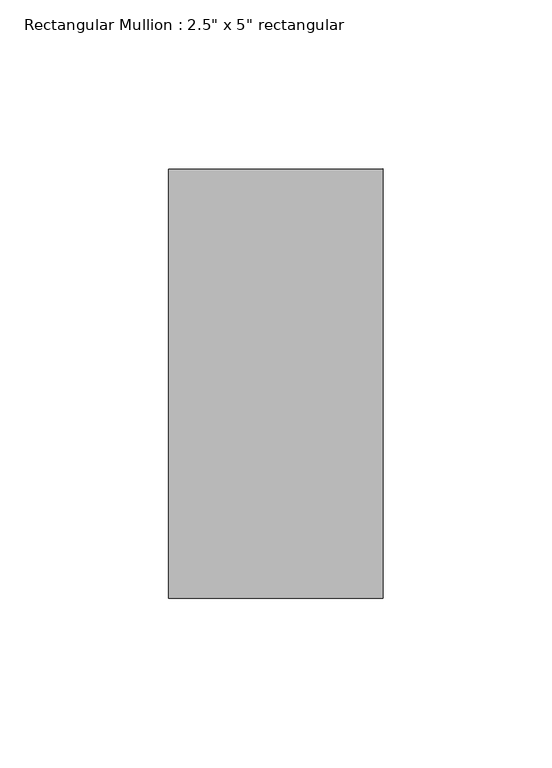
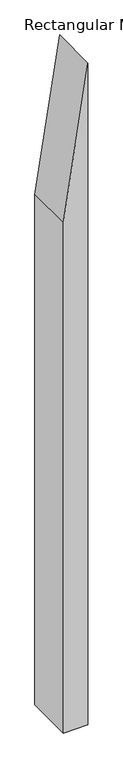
"""IFC4 building model written with IfcOpenShell, lengths in millimetres: member geometry."""

import ifcopenshell
import ifcopenshell.guid

model = None  # the IFC model being written
_history = None  # IfcOwnerHistory: only IFC2X3 demands one
_inside = {}  # id of a spatial element -> (the spatial element, [elements in it])
_under = {}  # id of a project, library or spatial element -> (it, [spatial elements below it])
_declared = {}  # id of a project -> (the project, [libraries it declares])
_typed = {}  # id of a type object -> (the type object, [elements of that type])
_made_of = {}  # id of a material, layer set ... -> (it, [elements and type objects made of it])


def new_model(schema):
    """Start an empty IFC model of exactly this schema.

    Asked for "IFC4X3", IfcOpenShell would pick the latest addendum, in which some entities
    have other attributes; the version numbers below select the first issue.
    IFC2X3 requires an IfcOwnerHistory on every rooted entity: one is made here for all.
    """
    global model, _history
    if schema == "IFC4X3":
        model = ifcopenshell.file(schema_version=(4, 3, 0, 0))
    else:
        model = ifcopenshell.file(schema=schema)
    _inside.clear()
    _under.clear()
    _declared.clear()
    _typed.clear()
    _made_of.clear()
    _history = None
    if model.schema == "IFC2X3":
        org = make("IfcOrganization", Name="unknown")
        user = make(
            "IfcPersonAndOrganization",
            ThePerson=make("IfcPerson", FamilyName="unknown"),
            TheOrganization=org,
        )
        app = make(
            "IfcApplication",
            ApplicationDeveloper=org,
            Version="unknown",
            ApplicationFullName="unknown",
            ApplicationIdentifier="unknown",
        )
        _history = make(
            "IfcOwnerHistory",
            OwningUser=user,
            OwningApplication=app,
            ChangeAction="ADDED",
            CreationDate=0,
        )
    return model


def make(cls, **values):
    """One entity of the class cls with the attributes given. An attribute that is None is left unset."""
    return model.create_entity(
        cls, **{name: value for name, value in values.items() if value is not None}
    )


def rooted(cls, **values):
    """An entity with a GlobalId (a new one), such as an element, a storey or a relation."""
    return make(cls, GlobalId=ifcopenshell.guid.new(), OwnerHistory=_history, **values)


def si_unit(unit_type, name, prefix=None):
    """IfcSIUnit, for example si_unit("LENGTHUNIT", "METRE", prefix="MILLI")."""
    return make("IfcSIUnit", UnitType=unit_type, Prefix=prefix, Name=name)


def assignment(units):
    """IfcUnitAssignment: the units of a project."""
    return None if units is None else make("IfcUnitAssignment", Units=units)


def point(xyz):
    """IfcCartesianPoint."""
    return None if xyz is None else make("IfcCartesianPoint", Coordinates=xyz)


def direction(xyz):
    """IfcDirection."""
    return None if xyz is None else make("IfcDirection", DirectionRatios=xyz)


def frame(location, z_axis=None, x_axis=None):
    """IfcAxis2Placement3D, a coordinate frame: its origin and axes. An axis left out is left unset."""
    return make(
        "IfcAxis2Placement3D",
        Location=point(location),
        Axis=direction(z_axis),
        RefDirection=direction(x_axis),
    )


def origin():
    """The frame at (0, 0, 0) with its axes left unset."""
    return frame((0.0, 0.0, 0.0))


def place(relative_to, where):
    """IfcLocalPlacement: puts the frame where relative to a parent placement (None: the world)."""
    return make(
        "IfcLocalPlacement", PlacementRelTo=relative_to, RelativePlacement=where
    )


def context(
    kind, dimensions, precision=None, world=None, true_north=None, identifier=None
):
    """IfcGeometricRepresentationContext, for example the 3D "Model" context."""
    return make(
        "IfcGeometricRepresentationContext",
        ContextIdentifier=identifier,
        ContextType=kind,
        CoordinateSpaceDimension=dimensions,
        Precision=precision,
        WorldCoordinateSystem=world,
        TrueNorth=true_north,
    )


def project(units=None, contexts=None):
    """IfcProject with its units and contexts."""
    return rooted(
        "IfcProject",
        Name="project",
        RepresentationContexts=contexts,
        UnitsInContext=assignment(units),
    )


def spatial(cls, under=None, at=None, **own):
    """A site, building, storey or space (cls), placed at a placement, below another one or the project."""
    s = rooted(cls, ObjectPlacement=at, **own)
    if under is not None:
        _under.setdefault(under.id(), (under, []))[1].append(s)
    return s


def polyline(points):
    """IfcPolyline through the points."""
    return make("IfcPolyline", Points=[point(p) for p in points])


def outline(outer, holes=None, kind="AREA"):
    """IfcArbitraryClosedProfileDef: a profile drawn as a closed curve; with holes, ...WithVoids."""
    if holes is None:
        return make("IfcArbitraryClosedProfileDef", ProfileType=kind, OuterCurve=outer)
    return make(
        "IfcArbitraryProfileDefWithVoids",
        ProfileType=kind,
        OuterCurve=outer,
        InnerCurves=holes,
    )


def extrude(swept, where, along, depth):
    """IfcExtrudedAreaSolid: the profile swept, set in the frame where, extruded along a direction by depth."""
    return make(
        "IfcExtrudedAreaSolid",
        SweptArea=swept,
        Position=where,
        ExtrudedDirection=direction(along),
        Depth=depth,
    )


def shape(context_of_items, identifier, shape_type, items):
    """IfcShapeRepresentation: the items that make up one representation, for example the "Body"."""
    return make(
        "IfcShapeRepresentation",
        ContextOfItems=context_of_items,
        RepresentationIdentifier=identifier,
        RepresentationType=shape_type,
        Items=items,
    )


def source(mapping_origin, context_of_items, identifier, shape_type, items):
    """IfcRepresentationMap: a shape defined once, which mapped items show again and again."""
    return make(
        "IfcRepresentationMap",
        MappingOrigin=mapping_origin,
        MappedRepresentation=shape(context_of_items, identifier, shape_type, items),
    )


def transform(
    local_origin,
    x_axis=None,
    y_axis=None,
    z_axis=None,
    scale=None,
    scale2=None,
    scale3=None,
    uniform=True,
):
    """IfcCartesianTransformationOperator3D, or its non-uniform kind. x_axis, y_axis, z_axis: its Axis1, 2, 3."""
    if uniform:
        return make(
            "IfcCartesianTransformationOperator3D",
            Axis1=direction(x_axis),
            Axis2=direction(y_axis),
            LocalOrigin=point(local_origin),
            Scale=scale,
            Axis3=direction(z_axis),
        )
    return make(
        "IfcCartesianTransformationOperator3DnonUniform",
        Axis1=direction(x_axis),
        Axis2=direction(y_axis),
        LocalOrigin=point(local_origin),
        Scale=scale,
        Axis3=direction(z_axis),
        Scale2=scale2,
        Scale3=scale3,
    )


def mapped(mapping_source, mapping_target):
    """IfcMappedItem: shows the shape of a source again, moved by a transform."""
    return make(
        "IfcMappedItem", MappingSource=mapping_source, MappingTarget=mapping_target
    )


def made_of(thing, what):
    """Note that an element or type object is made of a material, layer set ...; save() writes the relation."""
    if what is not None:
        _made_of.setdefault(what.id(), (what, []))[1].append(thing)
    return thing


def element(
    cls,
    number,
    at=None,
    inside=None,
    cuts=None,
    type_object=None,
    material=None,
    context=None,
    identifier="Body",
    shape_type=None,
    held_by="IfcProductDefinitionShape",
    body=None,
    shapes=None,
    **own,
):
    """One element of the class cls, such as IfcWall. Its Tag is "e" and its number.

    at: its placement. inside: the storey or other place that contains it. cuts: it is an
    opening in that element (IfcRelVoidsElement). A single representation is given by context,
    identifier, shape_type and body (its items); several are given by shapes. held_by: the class
    of the entity that holds the representations. save() writes the other relations.
    """
    e = rooted(cls, Tag="e%d" % number, ObjectPlacement=at, **own)
    if body is not None:
        shapes = [shape(context, identifier, shape_type, body)]
    if shapes is not None:
        e.Representation = make(held_by, Representations=shapes)
    if inside is not None:
        _inside.setdefault(inside.id(), (inside, []))[1].append(e)
    if cuts is not None:
        rooted(
            "IfcRelVoidsElement", RelatingBuildingElement=cuts, RelatedOpeningElement=e
        )
    if type_object is not None:
        _typed.setdefault(type_object.id(), (type_object, []))[1].append(e)
    return made_of(e, material)


def aggregate(whole, parts):
    """IfcRelAggregates: a whole, such as a stair, and the parts it consists of."""
    return rooted("IfcRelAggregates", RelatingObject=whole, RelatedObjects=parts)


def save(model, path):
    """Write the relations noted so far, then the file.

    IfcRelAggregates (storeys below a building ...), IfcRelContainedInSpatialStructure (elements
    in a storey), IfcRelDefinesByType, IfcRelAssociatesMaterial and IfcRelDeclares: one each for
    every whole, place, type object, material and project.
    """
    for whole, parts in _under.values():
        aggregate(whole, parts)
    for where, things in _inside.values():
        rooted(
            "IfcRelContainedInSpatialStructure",
            RelatedElements=things,
            RelatingStructure=where,
        )
    for kind, things in _typed.values():
        rooted("IfcRelDefinesByType", RelatedObjects=things, RelatingType=kind)
    for what, things in _made_of.values():
        rooted("IfcRelAssociatesMaterial", RelatedObjects=things, RelatingMaterial=what)
    for by, libraries in _declared.values():
        rooted("IfcRelDeclares", RelatingContext=by, RelatedDefinitions=libraries)
    model.write(path)


def member_47efc922(model_context):
    return source(origin(), model_context, "Body", "SweptSolid", [
        extrude(outline(polyline([(-211.3120137, 31.75), (-624.2277962, -31.75), (-2015.3669542, -31.75), (-2015.3669542, 31.75), (-211.3120137, 31.75)])), frame((0.0, -63.5, 0.0), z_axis=(0.0, 1.0, 0.0), x_axis=(0.0, 0.0, 1.0)), (0.0, 0.0, 1.0), 127.0),
    ])


if __name__ == "__main__":
    model = new_model("IFC4")
    model_context = context("Model", 3, world=origin())
    ifc_project = project(units=[si_unit("LENGTHUNIT", "METRE", prefix="MILLI")], contexts=[model_context])
    site = spatial("IfcSite", under=ifc_project)
    building = spatial("IfcBuilding", under=site)
    placement = place(None, origin())
    member_shape = member_47efc922(model_context)
    element("IfcMember", 1, ObjectType="Rectangular Mullion : 2.5\" x 5\" rectangular", at=placement, inside=building, context=model_context, shape_type="MappedRepresentation", body=[
        mapped(member_shape, transform((0.0, 0.0, 0.0), x_axis=(1.0, 0.0, 0.0), y_axis=(0.0, 1.0, 0.0), z_axis=(0.0, 0.0, 1.0))),
    ])
    save(model, "model.ifc")
